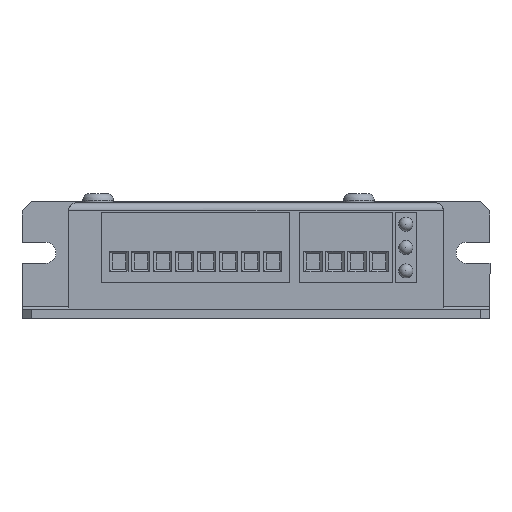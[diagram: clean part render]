
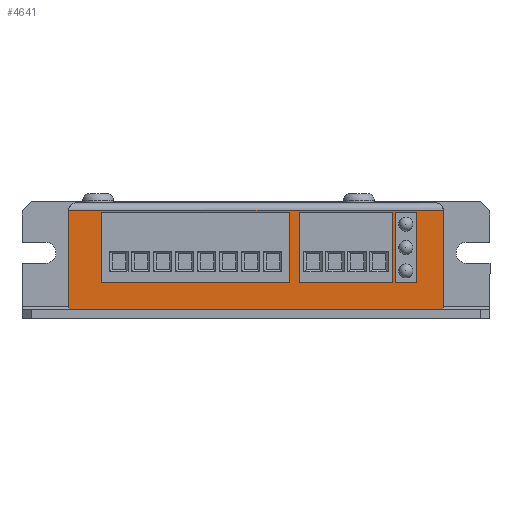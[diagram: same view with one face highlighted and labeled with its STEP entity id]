
A CAD part, front view. The second image highlights one B-rep face of the part: STEP entity #4641.
In plain terms, the highlighted planar face has unit normal (0, -1, 0).
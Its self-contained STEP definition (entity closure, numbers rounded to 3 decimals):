
#2128 = VERTEX_POINT ( 'NONE', #14057 ) ;
#2129 = VERTEX_POINT ( 'NONE', #14058 ) ;
#2130 = VERTEX_POINT ( 'NONE', #14059 ) ;
#2131 = VERTEX_POINT ( 'NONE', #14060 ) ;
#2132 = VERTEX_POINT ( 'NONE', #14061 ) ;
#2133 = VERTEX_POINT ( 'NONE', #14062 ) ;
#2134 = VERTEX_POINT ( 'NONE', #14063 ) ;
#2135 = VERTEX_POINT ( 'NONE', #14064 ) ;
#2136 = VERTEX_POINT ( 'NONE', #14065 ) ;
#2137 = VERTEX_POINT ( 'NONE', #14066 ) ;
#2138 = VERTEX_POINT ( 'NONE', #14067 ) ;
#2139 = VERTEX_POINT ( 'NONE', #14068 ) ;
#2140 = VERTEX_POINT ( 'NONE', #14069 ) ;
#2141 = VERTEX_POINT ( 'NONE', #14070 ) ;
#2142 = VERTEX_POINT ( 'NONE', #14071 ) ;
#2143 = VERTEX_POINT ( 'NONE', #14072 ) ;
#4641 = ADVANCED_FACE ( 'NONE', ( #15668, #15666, #15674, #15676 ), #14868, .F. ) ;
#4946 = EDGE_CURVE ( 'NONE', #2142, #2143, #16214, .T. ) ;
#4948 = EDGE_CURVE ( 'NONE', #2140, #2141, #16231, .T. ) ;
#4949 = EDGE_CURVE ( 'NONE', #2143, #2141, #16220, .T. ) ;
#4950 = EDGE_CURVE ( 'NONE', #2139, #2138, #16234, .T. ) ;
#4951 = EDGE_CURVE ( 'NONE', #2140, #2142, #16236, .T. ) ;
#4952 = EDGE_CURVE ( 'NONE', #2136, #2137, #16238, .T. ) ;
#4953 = EDGE_CURVE ( 'NONE', #2137, #2139, #16240, .T. ) ;
#4954 = EDGE_CURVE ( 'NONE', #2135, #2134, #16242, .T. ) ;
#4955 = EDGE_CURVE ( 'NONE', #2138, #2136, #16244, .T. ) ;
#4956 = EDGE_CURVE ( 'NONE', #2129, #2131, #16246, .T. ) ;
#4957 = EDGE_CURVE ( 'NONE', #2133, #2135, #16248, .T. ) ;
#4958 = EDGE_CURVE ( 'NONE', #2130, #2128, #16250, .T. ) ;
#4959 = EDGE_CURVE ( 'NONE', #2128, #2129, #16252, .T. ) ;
#4960 = EDGE_CURVE ( 'NONE', #2134, #2132, #16254, .T. ) ;
#4961 = EDGE_CURVE ( 'NONE', #2132, #2133, #16256, .T. ) ;
#4966 = EDGE_CURVE ( 'NONE', #2131, #2130, #16263, .T. ) ;
#5685 = ORIENTED_EDGE ( 'NONE', *, *, #4959, .F. ) ;
#5686 = ORIENTED_EDGE ( 'NONE', *, *, #4958, .F. ) ;
#5687 = ORIENTED_EDGE ( 'NONE', *, *, #4966, .F. ) ;
#5688 = ORIENTED_EDGE ( 'NONE', *, *, #4956, .F. ) ;
#5689 = ORIENTED_EDGE ( 'NONE', *, *, #4961, .F. ) ;
#5690 = ORIENTED_EDGE ( 'NONE', *, *, #4960, .F. ) ;
#5691 = ORIENTED_EDGE ( 'NONE', *, *, #4954, .F. ) ;
#5692 = ORIENTED_EDGE ( 'NONE', *, *, #4957, .F. ) ;
#5693 = ORIENTED_EDGE ( 'NONE', *, *, #4952, .F. ) ;
#5694 = ORIENTED_EDGE ( 'NONE', *, *, #4955, .F. ) ;
#5695 = ORIENTED_EDGE ( 'NONE', *, *, #4950, .F. ) ;
#5696 = ORIENTED_EDGE ( 'NONE', *, *, #4953, .F. ) ;
#5697 = ORIENTED_EDGE ( 'NONE', *, *, #4948, .F. ) ;
#5698 = ORIENTED_EDGE ( 'NONE', *, *, #4951, .T. ) ;
#5699 = ORIENTED_EDGE ( 'NONE', *, *, #4946, .T. ) ;
#5700 = ORIENTED_EDGE ( 'NONE', *, *, #4949, .T. ) ;
#6117 = EDGE_LOOP ( 'NONE', ( #5685, #5686, #5687, #5688 ) ) ;
#6135 = EDGE_LOOP ( 'NONE', ( #5689, #5690, #5691, #5692 ) ) ;
#6136 = EDGE_LOOP ( 'NONE', ( #5693, #5694, #5695, #5696 ) ) ;
#6137 = EDGE_LOOP ( 'NONE', ( #5697, #5698, #5699, #5700 ) ) ;
#13821 = AXIS2_PLACEMENT_3D ( 'NONE', #14872, #14874, #14875 ) ;
#14057 = CARTESIAN_POINT ( 'NONE',  ( 66.864, -30.309, 1.825 ) ) ;
#14058 = CARTESIAN_POINT ( 'NONE',  ( 66.864, -30.309, -5.675 ) ) ;
#14059 = CARTESIAN_POINT ( 'NONE',  ( 86.864, -30.309, 1.825 ) ) ;
#14060 = CARTESIAN_POINT ( 'NONE',  ( 86.864, -30.309, -5.675 ) ) ;
#14061 = CARTESIAN_POINT ( 'NONE',  ( 24.664, -30.309, 1.825 ) ) ;
#14062 = CARTESIAN_POINT ( 'NONE',  ( 24.664, -30.309, -5.675 ) ) ;
#14063 = CARTESIAN_POINT ( 'NONE',  ( 64.864, -30.309, 1.825 ) ) ;
#14064 = CARTESIAN_POINT ( 'NONE',  ( 64.864, -30.309, -5.675 ) ) ;
#14065 = CARTESIAN_POINT ( 'NONE',  ( 87.433, -30.309, -5.675 ) ) ;
#14066 = CARTESIAN_POINT ( 'NONE',  ( 91.933, -30.309, -5.675 ) ) ;
#14067 = CARTESIAN_POINT ( 'NONE',  ( 87.433, -30.309, 9.325 ) ) ;
#14068 = CARTESIAN_POINT ( 'NONE',  ( 91.933, -30.309, 9.325 ) ) ;
#14069 = CARTESIAN_POINT ( 'NONE',  ( 97.664, -30.309, 9.825 ) ) ;
#14070 = CARTESIAN_POINT ( 'NONE',  ( 97.664, -30.309, -11.325 ) ) ;
#14071 = CARTESIAN_POINT ( 'NONE',  ( 17.664, -30.309, 9.825 ) ) ;
#14072 = CARTESIAN_POINT ( 'NONE',  ( 17.664, -30.309, -11.325 ) ) ;
#14868 = PLANE ( 'NONE',  #13821 ) ;
#14872 = CARTESIAN_POINT ( 'NONE',  ( 17.664, -30.309, 11.325 ) ) ;
#14874 = DIRECTION ( 'NONE',  ( 0., 1., 0. ) ) ;
#14875 = DIRECTION ( 'NONE',  ( 0., 0., 1. ) ) ;
#15666 = FACE_BOUND ( 'NONE', #6135, .T. ) ;
#15668 = FACE_BOUND ( 'NONE', #6117, .T. ) ;
#15674 = FACE_BOUND ( 'NONE', #6136, .T. ) ;
#15676 = FACE_OUTER_BOUND ( 'NONE', #6137, .T. ) ;
#16213 = VECTOR ( 'NONE', #16722, 1000. ) ;
#16214 = LINE ( 'NONE', #16721, #16213 ) ;
#16220 = LINE ( 'NONE', #16723, #16233 ) ;
#16231 = LINE ( 'NONE', #16726, #16232 ) ;
#16232 = VECTOR ( 'NONE', #16727, 1000. ) ;
#16233 = VECTOR ( 'NONE', #16729, 1000. ) ;
#16234 = LINE ( 'NONE', #16730, #16235 ) ;
#16235 = VECTOR ( 'NONE', #16731, 1000. ) ;
#16236 = LINE ( 'NONE', #16732, #16237 ) ;
#16237 = VECTOR ( 'NONE', #16733, 1000. ) ;
#16238 = LINE ( 'NONE', #16734, #16239 ) ;
#16239 = VECTOR ( 'NONE', #16735, 1000. ) ;
#16240 = LINE ( 'NONE', #16736, #16241 ) ;
#16241 = VECTOR ( 'NONE', #16737, 1000. ) ;
#16242 = LINE ( 'NONE', #16738, #16243 ) ;
#16243 = VECTOR ( 'NONE', #16739, 1000. ) ;
#16244 = LINE ( 'NONE', #16740, #16245 ) ;
#16245 = VECTOR ( 'NONE', #16741, 1000. ) ;
#16246 = LINE ( 'NONE', #16742, #16247 ) ;
#16247 = VECTOR ( 'NONE', #16743, 1000. ) ;
#16248 = LINE ( 'NONE', #16744, #16249 ) ;
#16249 = VECTOR ( 'NONE', #16745, 1000. ) ;
#16250 = LINE ( 'NONE', #16746, #16251 ) ;
#16251 = VECTOR ( 'NONE', #16747, 1000. ) ;
#16252 = LINE ( 'NONE', #16748, #16253 ) ;
#16253 = VECTOR ( 'NONE', #16749, 1000. ) ;
#16254 = LINE ( 'NONE', #16750, #16255 ) ;
#16255 = VECTOR ( 'NONE', #16751, 1000. ) ;
#16256 = LINE ( 'NONE', #16752, #16257 ) ;
#16257 = VECTOR ( 'NONE', #16753, 1000. ) ;
#16263 = LINE ( 'NONE', #16757, #16265 ) ;
#16265 = VECTOR ( 'NONE', #16766, 1000. ) ;
#16721 = CARTESIAN_POINT ( 'NONE',  ( 17.664, -30.309, 11.325 ) ) ;
#16722 = DIRECTION ( 'NONE',  ( 0., 0., -1. ) ) ;
#16723 = CARTESIAN_POINT ( 'NONE',  ( 17.664, -30.309, -11.325 ) ) ;
#16726 = CARTESIAN_POINT ( 'NONE',  ( 97.664, -30.309, 11.325 ) ) ;
#16727 = DIRECTION ( 'NONE',  ( 0., 0., -1. ) ) ;
#16729 = DIRECTION ( 'NONE',  ( 1., 0., 0. ) ) ;
#16730 = CARTESIAN_POINT ( 'NONE',  ( 87.433, -30.309, 9.325 ) ) ;
#16731 = DIRECTION ( 'NONE',  ( -1., 0., 0. ) ) ;
#16732 = CARTESIAN_POINT ( 'NONE',  ( 17.664, -30.309, 9.825 ) ) ;
#16733 = DIRECTION ( 'NONE',  ( -1., 0., 0. ) ) ;
#16734 = CARTESIAN_POINT ( 'NONE',  ( 87.433, -30.309, -5.675 ) ) ;
#16735 = DIRECTION ( 'NONE',  ( 1., 0., 0. ) ) ;
#16736 = CARTESIAN_POINT ( 'NONE',  ( 91.933, -30.309, 9.325 ) ) ;
#16737 = DIRECTION ( 'NONE',  ( 0., 0., 1. ) ) ;
#16738 = CARTESIAN_POINT ( 'NONE',  ( 64.864, -30.309, 9.325 ) ) ;
#16739 = DIRECTION ( 'NONE',  ( 0., 0., 1. ) ) ;
#16740 = CARTESIAN_POINT ( 'NONE',  ( 87.433, -30.309, 9.325 ) ) ;
#16741 = DIRECTION ( 'NONE',  ( 0., 0., -1. ) ) ;
#16742 = CARTESIAN_POINT ( 'NONE',  ( 66.864, -30.309, -5.675 ) ) ;
#16743 = DIRECTION ( 'NONE',  ( 1., 0., 0. ) ) ;
#16744 = CARTESIAN_POINT ( 'NONE',  ( 24.664, -30.309, -5.675 ) ) ;
#16745 = DIRECTION ( 'NONE',  ( 1., 0., 0. ) ) ;
#16746 = CARTESIAN_POINT ( 'NONE',  ( 86.864, -30.309, 1.825 ) ) ;
#16747 = DIRECTION ( 'NONE',  ( -1., 0., 0. ) ) ;
#16748 = CARTESIAN_POINT ( 'NONE',  ( 66.864, -30.309, 9.325 ) ) ;
#16749 = DIRECTION ( 'NONE',  ( 0., 0., -1. ) ) ;
#16750 = CARTESIAN_POINT ( 'NONE',  ( 64.864, -30.309, 1.825 ) ) ;
#16751 = DIRECTION ( 'NONE',  ( -1., 0., 0. ) ) ;
#16752 = CARTESIAN_POINT ( 'NONE',  ( 24.664, -30.309, 9.325 ) ) ;
#16753 = DIRECTION ( 'NONE',  ( 0., 0., -1. ) ) ;
#16757 = CARTESIAN_POINT ( 'NONE',  ( 86.864, -30.309, 9.325 ) ) ;
#16766 = DIRECTION ( 'NONE',  ( 0., 0., 1. ) ) ;
